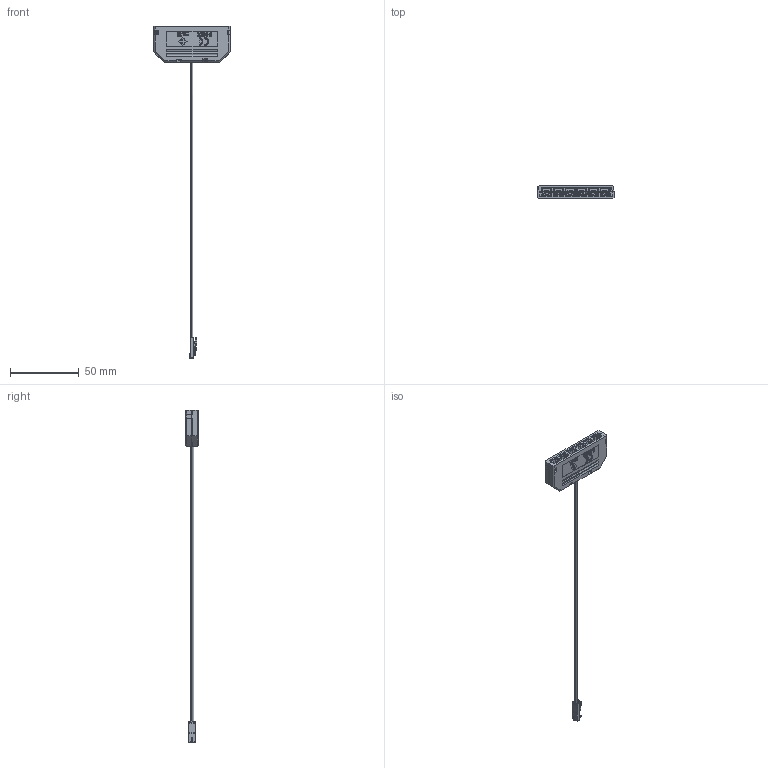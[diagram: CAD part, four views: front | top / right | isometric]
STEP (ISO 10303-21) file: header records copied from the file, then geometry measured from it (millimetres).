
FILE_DESCRIPTION (( 'STEP AP214' ), '1' );
FILE_NAME ('2000055 6-fach Verteiler mit Stecker.STEP', '2022-11-22T08:58:51', ( '' ), ( '' ), 'SwSTEP 2.0', 'SolidWorks 2021', '' );
FILE_SCHEMA (( 'AUTOMOTIVE_DESIGN' ));
Length unit declared in the file: millimetre
Products named in the file (16): 17_11_16-203.stp; ASM0002_ASM_1_ASM.stp; 17_11_16-204.stp; GONGCHA.stp; ASM0001_ASM.stp; PRODUCT_6__ASM_ASM.stp; 3906400.stp; HT_1.stp; A_1.stp; C_1.stp; B_1.stp; CZ_1.stp; ASM0001_ASM_1_ASM.stp; PCB_1.stp; 2000055 6-fach Verteiler mit Stecker; ADMI17AC297C120Q_ASM_ASM.stp
Assembly tree (17 placements, depth 6):
  2000055 6-fach Verteiler mit Stecker
    3906400.stp
      ASM0001_ASM_1_ASM.stp
        ASM0002_ASM_1_ASM.stp
          PCB_1.stp
          CZ_1.stp  x3
          A_1.stp
          B_1.stp
          C_1.stp
          HT_1.stp
      PRODUCT_6__ASM_ASM.stp
        ASM0001_ASM.stp
          ADMI17AC297C120Q_ASM_ASM.stp
            17_11_16-203.stp
            17_11_16-204.stp
      GONGCHA.stp
Bounding box: 55.55 x 9.17 x 241.25 mm (x, y, z)
Volume: 7680.8 mm3; surface area: 15694.6 mm2
Topology: 11 solids, 11 shells, 2524 faces, 6694 edges, 4210 vertices
Faces by surface type: plane 1916, cylinder 273, bspline 236, sphere 51, torus 32, cone 16
Entity records: 78540 total; most frequent: CARTESIAN_POINT 21036, ORIENTED_EDGE 12638, DIRECTION 10265, EDGE_CURVE 6319, VECTOR 4997, LINE 4997, VERTEX_POINT 4004, AXIS2_PLACEMENT_3D 2634
